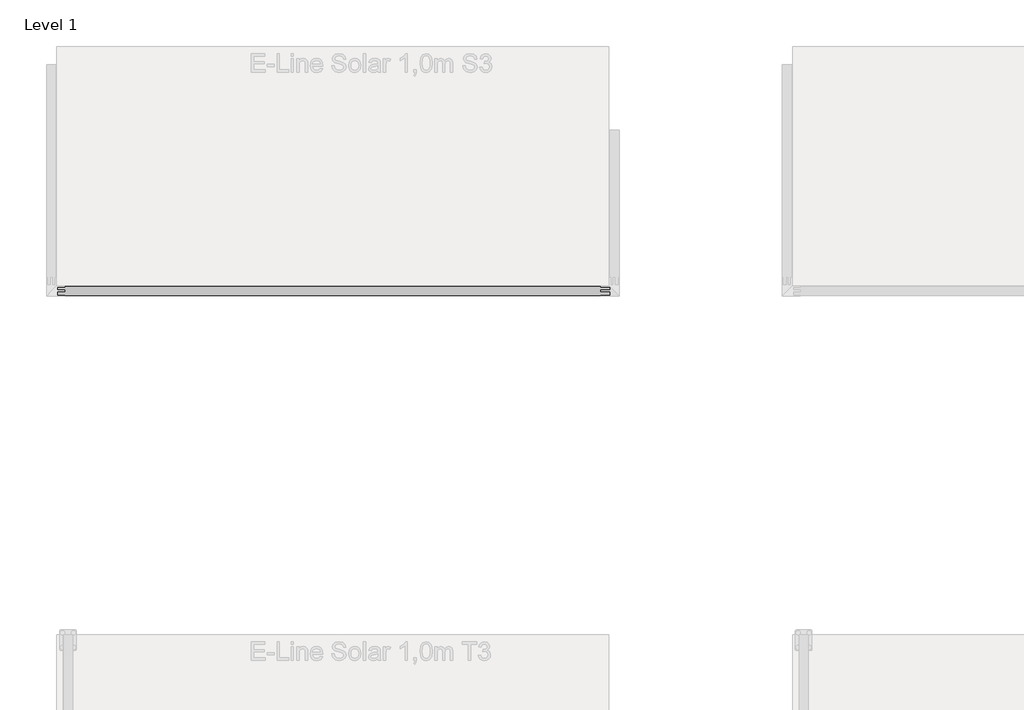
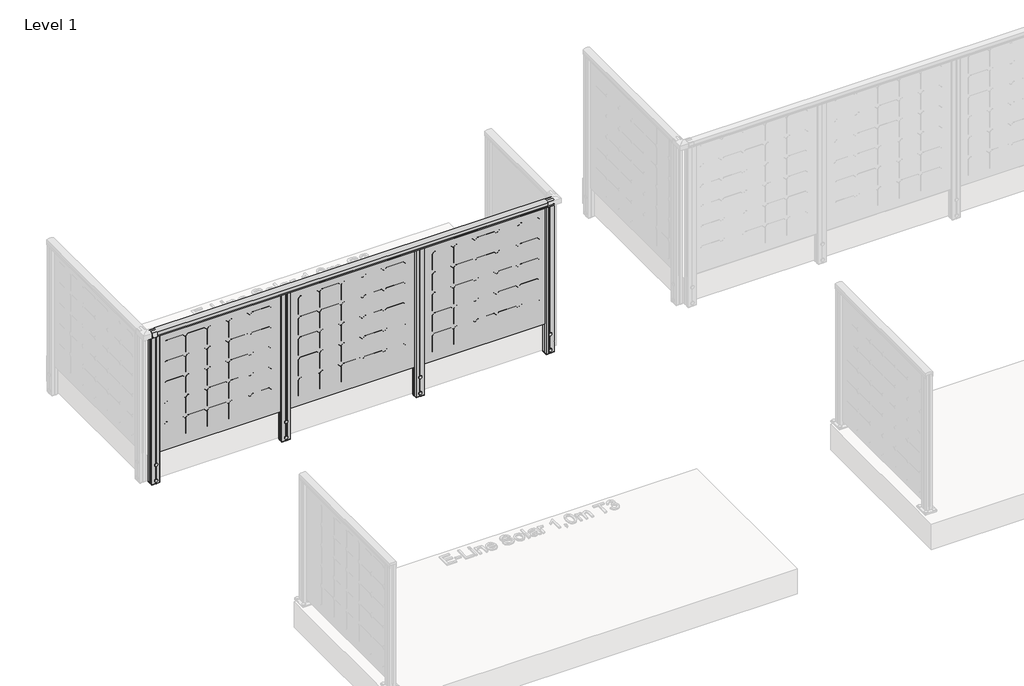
# One storey, part 36 of 66: 1 railing.
"""IFC4 building model written with IfcOpenShell, lengths in millimetres."""

from ifc_helpers import new_model, si_unit, point, frame, frame_2d, origin, place, context, project, spatial, polyline, circle_curve, trimmed, segment, composite_curve, outline, extrude, element, save

model = new_model("IFC4")

# Units and contexts
model_context = context("Model", 3, world=origin())
ifc_project = project(units=[si_unit("LENGTHUNIT", "METRE", prefix="MILLI")], contexts=[model_context])

# Site, building, storey
site = spatial("IfcSite", under=ifc_project)
building = spatial("IfcBuilding", under=site)
storey = spatial("IfcBuildingStorey", under=building, Name="Level 1", Elevation=0.0)

# Railing
placement = place(None, origin())
element("IfcRailing", 1, ObjectType="E-Line Solar 1,0m S3 5 columns of solar elements", at=placement, inside=storey, context=model_context, shape_type="SweptSolid", body=[
    extrude(outline(composite_curve([segment(polyline([(213.4211819, 994.1390059), (213.4211819, 967.1990555), (212.8063989, 966.5842725), (213.4211819, 965.9694895), (213.4211819, 957.2498847), (211.6613734, 957.2498847), (211.6613734, 980.4998829), (164.6663272, 980.4998829), (164.6663272, 957.2498847), (162.8613743, 957.2498847), (162.8613743, 965.8194895), (163.4834554, 966.4415706), (162.9015237, 967.0235023), (162.9015237, 994.1342258)]), True, "CONTINUOUS"), segment(trimmed(circle_curve(frame_2d((188.1662216, 942.6785502)), 57.3235687), [point((162.9015237, 994.1342258))], [point((213.4211819, 994.1390059))], False, "CARTESIAN"), True, "CONTINUOUS")], self_intersect=False)), frame((15301.5263105, 0.0, 0.0), z_axis=(1.0, 0.0, 0.0), x_axis=(0.0, 1.0, 0.0)), (0.0, 0.0, 1.0), 3000.0),
    extrude(outline(polyline([(15301.5263105, 184.5015979), (15301.5263105, 193.2615979), (18301.5263105, 193.2615979), (18301.5263105, 184.5015979), (15301.5263105, 184.5015979)])), frame((0.0, 0.0, 28.0), z_axis=(0.0, 0.0, 1.0), x_axis=(1.0, 0.0, 0.0)), (0.0, 0.0, 1.0), 952.0),
    extrude(outline(polyline([(0.0, 0.0), (-16.036927, 16.036927), (-16.036927, 139.963073), (0.0, 156.0), (123.9261459, 156.0), (139.963073, 139.963073), (139.963073, 16.036927), (123.9261459, 0.0), (0.0, 0.0)])), frame((17557.5263105, 184.3815979, 873.4156895), z_axis=(5.80887881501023e-12, 1.0, 0.0), x_axis=(0.0, 0.0, -1.0)), (0.0, 0.0, 1.0), 1.0),
    extrude(outline(polyline([(0.0, 0.0), (-16.036927, 16.036927), (-16.036927, 139.963073), (0.0, 156.0), (123.9261459, 156.0), (139.963073, 139.963073), (139.963073, 16.036927), (123.9261459, 0.0), (0.0, 0.0)])), frame((17557.5263105, 184.3815979, 712.4156895), z_axis=(5.80887881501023e-12, 1.0, 0.0), x_axis=(0.0, 0.0, -1.0)), (0.0, 0.0, 1.0), 1.0),
    extrude(outline(polyline([(0.0, 0.0), (-16.036927, 16.036927), (-16.036927, 139.963073), (0.0, 156.0), (123.9261459, 156.0), (139.963073, 139.963073), (139.963073, 16.036927), (123.9261459, 0.0), (0.0, 0.0)])), frame((17557.5263105, 184.3815979, 551.4156895), z_axis=(5.80887881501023e-12, 1.0, 0.0), x_axis=(0.0, 0.0, -1.0)), (0.0, 0.0, 1.0), 1.0),
    extrude(outline(polyline([(0.0, 0.0), (-16.036927, 16.036927), (-16.036927, 139.963073), (0.0, 156.0), (123.9261459, 156.0), (139.963073, 139.963073), (139.963073, 16.036927), (123.9261459, 0.0), (0.0, 0.0)])), frame((17557.5263105, 184.3815979, 390.4156895), z_axis=(5.80887881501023e-12, 1.0, 0.0), x_axis=(0.0, 0.0, -1.0)), (0.0, 0.0, 1.0), 1.0),
    extrude(outline(polyline([(0.0, 0.0), (-16.036927, 16.036927), (-16.036927, 139.963073), (0.0, 156.0), (123.9261459, 156.0), (139.963073, 139.963073), (139.963073, 16.036927), (123.9261459, 0.0), (0.0, 0.0)])), frame((17557.5263105, 184.3815979, 229.4156895), z_axis=(5.80887881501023e-12, 1.0, 0.0), x_axis=(0.0, 0.0, -1.0)), (0.0, 0.0, 1.0), 1.0),
    extrude(outline(polyline([(0.0, 0.0), (-16.036927, 16.036927), (-16.036927, 139.963073), (0.0, 156.0), (123.9261459, 156.0), (139.963073, 139.963073), (139.963073, 16.036927), (123.9261459, 0.0), (0.0, 0.0)])), frame((17718.5263105, 184.3815979, 873.4156895), z_axis=(5.80887881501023e-12, 1.0, 0.0), x_axis=(0.0, 0.0, -1.0)), (0.0, 0.0, 1.0), 1.0),
    extrude(outline(polyline([(0.0, 0.0), (-16.036927, 16.036927), (-16.036927, 139.963073), (0.0, 156.0), (123.9261459, 156.0), (139.963073, 139.963073), (139.963073, 16.036927), (123.9261459, 0.0), (0.0, 0.0)])), frame((17718.5263105, 184.3815979, 712.4156895), z_axis=(5.80887881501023e-12, 1.0, 0.0), x_axis=(0.0, 0.0, -1.0)), (0.0, 0.0, 1.0), 1.0),
    extrude(outline(polyline([(0.0, 0.0), (-16.036927, 16.036927), (-16.036927, 139.963073), (0.0, 156.0), (123.9261459, 156.0), (139.963073, 139.963073), (139.963073, 16.036927), (123.9261459, 0.0), (0.0, 0.0)])), frame((17718.5263105, 184.3815979, 551.4156895), z_axis=(5.80887881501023e-12, 1.0, 0.0), x_axis=(0.0, 0.0, -1.0)), (0.0, 0.0, 1.0), 1.0),
    extrude(outline(polyline([(0.0, 0.0), (-16.036927, 16.036927), (-16.036927, 139.963073), (0.0, 156.0), (123.9261459, 156.0), (139.963073, 139.963073), (139.963073, 16.036927), (123.9261459, 0.0), (0.0, 0.0)])), frame((17718.5263105, 184.3815979, 390.4156895), z_axis=(5.80887881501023e-12, 1.0, 0.0), x_axis=(0.0, 0.0, -1.0)), (0.0, 0.0, 1.0), 1.0),
    extrude(outline(polyline([(0.0, 0.0), (-16.036927, 16.036927), (-16.036927, 139.963073), (0.0, 156.0), (123.9261459, 156.0), (139.963073, 139.963073), (139.963073, 16.036927), (123.9261459, 0.0), (0.0, 0.0)])), frame((17718.5263105, 184.3815979, 229.4156895), z_axis=(5.80887881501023e-12, 1.0, 0.0), x_axis=(0.0, 0.0, -1.0)), (0.0, 0.0, 1.0), 1.0),
    extrude(outline(polyline([(0.0, 0.0), (-16.036927, 16.036927), (-16.036927, 139.963073), (0.0, 156.0), (123.9261459, 156.0), (139.963073, 139.963073), (139.963073, 16.036927), (123.9261459, 0.0), (0.0, 0.0)])), frame((18201.5263105, 184.3815979, 873.4156895), z_axis=(5.80887881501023e-12, 1.0, 0.0), x_axis=(0.0, 0.0, -1.0)), (0.0, 0.0, 1.0), 1.0),
    extrude(outline(polyline([(0.0, 0.0), (-16.036927, 16.036927), (-16.036927, 139.963073), (0.0, 156.0), (123.9261459, 156.0), (139.963073, 139.963073), (139.963073, 16.036927), (123.9261459, 0.0), (0.0, 0.0)])), frame((18201.5263105, 184.3815979, 712.4156895), z_axis=(5.80887881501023e-12, 1.0, 0.0), x_axis=(0.0, 0.0, -1.0)), (0.0, 0.0, 1.0), 1.0),
    extrude(outline(polyline([(0.0, 0.0), (-16.036927, 16.036927), (-16.036927, 139.963073), (0.0, 156.0), (123.9261459, 156.0), (139.963073, 139.963073), (139.963073, 16.036927), (123.9261459, 0.0), (0.0, 0.0)])), frame((18201.5263105, 184.3815979, 551.4156895), z_axis=(5.80887881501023e-12, 1.0, 0.0), x_axis=(0.0, 0.0, -1.0)), (0.0, 0.0, 1.0), 1.0),
    extrude(outline(polyline([(0.0, 0.0), (-16.036927, 16.036927), (-16.036927, 139.963073), (0.0, 156.0), (123.9261459, 156.0), (139.963073, 139.963073), (139.963073, 16.036927), (123.9261459, 0.0), (0.0, 0.0)])), frame((18201.5263105, 184.3815979, 390.4156895), z_axis=(5.80887881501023e-12, 1.0, 0.0), x_axis=(0.0, 0.0, -1.0)), (0.0, 0.0, 1.0), 1.0),
    extrude(outline(polyline([(0.0, 0.0), (-16.036927, 16.036927), (-16.036927, 139.963073), (0.0, 156.0), (123.9261459, 156.0), (139.963073, 139.963073), (139.963073, 16.036927), (123.9261459, 0.0), (0.0, 0.0)])), frame((18201.5263105, 184.3815979, 229.4156895), z_axis=(5.80887881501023e-12, 1.0, 0.0), x_axis=(0.0, 0.0, -1.0)), (0.0, 0.0, 1.0), 1.0),
    extrude(outline(polyline([(0.0, 0.0), (-16.036927, 16.036927), (-16.036927, 139.963073), (0.0, 156.0), (123.9261459, 156.0), (139.963073, 139.963073), (139.963073, 16.036927), (123.9261459, 0.0), (0.0, 0.0)])), frame((18040.5263105, 184.3815979, 873.4156895), z_axis=(5.80887881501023e-12, 1.0, 0.0), x_axis=(0.0, 0.0, -1.0)), (0.0, 0.0, 1.0), 1.0),
    extrude(outline(polyline([(0.0, 0.0), (-16.036927, 16.036927), (-16.036927, 139.963073), (0.0, 156.0), (123.9261459, 156.0), (139.963073, 139.963073), (139.963073, 16.036927), (123.9261459, 0.0), (0.0, 0.0)])), frame((18040.5263105, 184.3815979, 712.4156895), z_axis=(5.80887881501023e-12, 1.0, 0.0), x_axis=(0.0, 0.0, -1.0)), (0.0, 0.0, 1.0), 1.0),
    extrude(outline(polyline([(0.0, 0.0), (-16.036927, 16.036927), (-16.036927, 139.963073), (0.0, 156.0), (123.9261459, 156.0), (139.963073, 139.963073), (139.963073, 16.036927), (123.9261459, 0.0), (0.0, 0.0)])), frame((18040.5263105, 184.3815979, 551.4156895), z_axis=(5.80887881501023e-12, 1.0, 0.0), x_axis=(0.0, 0.0, -1.0)), (0.0, 0.0, 1.0), 1.0),
    extrude(outline(polyline([(0.0, 0.0), (-16.036927, 16.036927), (-16.036927, 139.963073), (0.0, 156.0), (123.9261459, 156.0), (139.963073, 139.963073), (139.963073, 16.036927), (123.9261459, 0.0), (0.0, 0.0)])), frame((18040.5263105, 184.3815979, 390.4156895), z_axis=(5.80887881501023e-12, 1.0, 0.0), x_axis=(0.0, 0.0, -1.0)), (0.0, 0.0, 1.0), 1.0),
    extrude(outline(polyline([(0.0, 0.0), (-16.036927, 16.036927), (-16.036927, 139.963073), (0.0, 156.0), (123.9261459, 156.0), (139.963073, 139.963073), (139.963073, 16.036927), (123.9261459, 0.0), (0.0, 0.0)])), frame((18040.5263105, 184.3815979, 229.4156895), z_axis=(5.80887881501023e-12, 1.0, 0.0), x_axis=(0.0, 0.0, -1.0)), (0.0, 0.0, 1.0), 1.0),
    extrude(outline(polyline([(0.0, 0.0), (-16.036927, 16.036927), (-16.036927, 139.963073), (0.0, 156.0), (123.9261459, 156.0), (139.963073, 139.963073), (139.963073, 16.036927), (123.9261459, 0.0), (0.0, 0.0)])), frame((17879.5263105, 184.3815979, 873.4156895), z_axis=(5.80887881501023e-12, 1.0, 0.0), x_axis=(0.0, 0.0, -1.0)), (0.0, 0.0, 1.0), 1.0),
    extrude(outline(polyline([(0.0, 0.0), (-16.036927, 16.036927), (-16.036927, 139.963073), (0.0, 156.0), (123.9261459, 156.0), (139.963073, 139.963073), (139.963073, 16.036927), (123.9261459, 0.0), (0.0, 0.0)])), frame((17879.5263105, 184.3815979, 712.4156895), z_axis=(5.80887881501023e-12, 1.0, 0.0), x_axis=(0.0, 0.0, -1.0)), (0.0, 0.0, 1.0), 1.0),
    extrude(outline(polyline([(0.0, 0.0), (-16.036927, 16.036927), (-16.036927, 139.963073), (0.0, 156.0), (123.9261459, 156.0), (139.963073, 139.963073), (139.963073, 16.036927), (123.9261459, 0.0), (0.0, 0.0)])), frame((17879.5263105, 184.3815979, 551.4156895), z_axis=(5.80887881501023e-12, 1.0, 0.0), x_axis=(0.0, 0.0, -1.0)), (0.0, 0.0, 1.0), 1.0),
    extrude(outline(polyline([(0.0, 0.0), (-16.036927, 16.036927), (-16.036927, 139.963073), (0.0, 156.0), (123.9261459, 156.0), (139.963073, 139.963073), (139.963073, 16.036927), (123.9261459, 0.0), (0.0, 0.0)])), frame((17879.5263105, 184.3815979, 390.4156895), z_axis=(5.80887881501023e-12, 1.0, 0.0), x_axis=(0.0, 0.0, -1.0)), (0.0, 0.0, 1.0), 1.0),
    extrude(outline(polyline([(0.0, 0.0), (-16.036927, 16.036927), (-16.036927, 139.963073), (0.0, 156.0), (123.9261459, 156.0), (139.963073, 139.963073), (139.963073, 16.036927), (123.9261459, 0.0), (0.0, 0.0)])), frame((17879.5263105, 184.3815979, 229.4156895), z_axis=(5.80887881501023e-12, 1.0, 0.0), x_axis=(0.0, 0.0, -1.0)), (0.0, 0.0, 1.0), 1.0),
    extrude(outline(polyline([(0.0, 0.0), (-16.036927, 16.036927), (-16.036927, 139.963073), (0.0, 156.0), (123.9261459, 156.0), (139.963073, 139.963073), (139.963073, 16.036927), (123.9261459, 0.0), (0.0, 0.0)])), frame((16557.5263105, 184.3815979, 873.4156895), z_axis=(5.80887881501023e-12, 1.0, 0.0), x_axis=(0.0, 0.0, -1.0)), (0.0, 0.0, 1.0), 1.0),
    extrude(outline(polyline([(0.0, 0.0), (-16.036927, 16.036927), (-16.036927, 139.963073), (0.0, 156.0), (123.9261459, 156.0), (139.963073, 139.963073), (139.963073, 16.036927), (123.9261459, 0.0), (0.0, 0.0)])), frame((16557.5263105, 184.3815979, 712.4156895), z_axis=(5.80887881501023e-12, 1.0, 0.0), x_axis=(0.0, 0.0, -1.0)), (0.0, 0.0, 1.0), 1.0),
    extrude(outline(polyline([(0.0, 0.0), (-16.036927, 16.036927), (-16.036927, 139.963073), (0.0, 156.0), (123.9261459, 156.0), (139.963073, 139.963073), (139.963073, 16.036927), (123.9261459, 0.0), (0.0, 0.0)])), frame((16557.5263105, 184.3815979, 551.4156895), z_axis=(5.80887881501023e-12, 1.0, 0.0), x_axis=(0.0, 0.0, -1.0)), (0.0, 0.0, 1.0), 1.0),
    extrude(outline(polyline([(0.0, 0.0), (-16.036927, 16.036927), (-16.036927, 139.963073), (0.0, 156.0), (123.9261459, 156.0), (139.963073, 139.963073), (139.963073, 16.036927), (123.9261459, 0.0), (0.0, 0.0)])), frame((16557.5263105, 184.3815979, 390.4156895), z_axis=(5.80887881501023e-12, 1.0, 0.0), x_axis=(0.0, 0.0, -1.0)), (0.0, 0.0, 1.0), 1.0),
    extrude(outline(polyline([(0.0, 0.0), (-16.036927, 16.036927), (-16.036927, 139.963073), (0.0, 156.0), (123.9261459, 156.0), (139.963073, 139.963073), (139.963073, 16.036927), (123.9261459, 0.0), (0.0, 0.0)])), frame((16557.5263105, 184.3815979, 229.4156895), z_axis=(5.80887881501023e-12, 1.0, 0.0), x_axis=(0.0, 0.0, -1.0)), (0.0, 0.0, 1.0), 1.0),
    extrude(outline(polyline([(0.0, 0.0), (-16.036927, 16.036927), (-16.036927, 139.963073), (0.0, 156.0), (123.9261459, 156.0), (139.963073, 139.963073), (139.963073, 16.036927), (123.9261459, 0.0), (0.0, 0.0)])), frame((16718.5263105, 184.3815979, 873.4156895), z_axis=(5.80887881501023e-12, 1.0, 0.0), x_axis=(0.0, 0.0, -1.0)), (0.0, 0.0, 1.0), 1.0),
    extrude(outline(polyline([(0.0, 0.0), (-16.036927, 16.036927), (-16.036927, 139.963073), (0.0, 156.0), (123.9261459, 156.0), (139.963073, 139.963073), (139.963073, 16.036927), (123.9261459, 0.0), (0.0, 0.0)])), frame((16718.5263105, 184.3815979, 712.4156895), z_axis=(5.80887881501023e-12, 1.0, 0.0), x_axis=(0.0, 0.0, -1.0)), (0.0, 0.0, 1.0), 1.0),
    extrude(outline(polyline([(0.0, 0.0), (-16.036927, 16.036927), (-16.036927, 139.963073), (0.0, 156.0), (123.9261459, 156.0), (139.963073, 139.963073), (139.963073, 16.036927), (123.9261459, 0.0), (0.0, 0.0)])), frame((16718.5263105, 184.3815979, 551.4156895), z_axis=(5.80887881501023e-12, 1.0, 0.0), x_axis=(0.0, 0.0, -1.0)), (0.0, 0.0, 1.0), 1.0),
    extrude(outline(polyline([(0.0, 0.0), (-16.036927, 16.036927), (-16.036927, 139.963073), (0.0, 156.0), (123.9261459, 156.0), (139.963073, 139.963073), (139.963073, 16.036927), (123.9261459, 0.0), (0.0, 0.0)])), frame((16718.5263105, 184.3815979, 390.4156895), z_axis=(5.80887881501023e-12, 1.0, 0.0), x_axis=(0.0, 0.0, -1.0)), (0.0, 0.0, 1.0), 1.0),
    extrude(outline(polyline([(0.0, 0.0), (-16.036927, 16.036927), (-16.036927, 139.963073), (0.0, 156.0), (123.9261459, 156.0), (139.963073, 139.963073), (139.963073, 16.036927), (123.9261459, 0.0), (0.0, 0.0)])), frame((16718.5263105, 184.3815979, 229.4156895), z_axis=(5.80887881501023e-12, 1.0, 0.0), x_axis=(0.0, 0.0, -1.0)), (0.0, 0.0, 1.0), 1.0),
    extrude(outline(polyline([(0.0, 0.0), (-16.036927, 16.036927), (-16.036927, 139.963073), (0.0, 156.0), (123.9261459, 156.0), (139.963073, 139.963073), (139.963073, 16.036927), (123.9261459, 0.0), (0.0, 0.0)])), frame((17201.5263105, 184.3815979, 873.4156895), z_axis=(5.80887881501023e-12, 1.0, 0.0), x_axis=(0.0, 0.0, -1.0)), (0.0, 0.0, 1.0), 1.0),
    extrude(outline(polyline([(0.0, 0.0), (-16.036927, 16.036927), (-16.036927, 139.963073), (0.0, 156.0), (123.9261459, 156.0), (139.963073, 139.963073), (139.963073, 16.036927), (123.9261459, 0.0), (0.0, 0.0)])), frame((17201.5263105, 184.3815979, 712.4156895), z_axis=(5.80887881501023e-12, 1.0, 0.0), x_axis=(0.0, 0.0, -1.0)), (0.0, 0.0, 1.0), 1.0),
    extrude(outline(polyline([(0.0, 0.0), (-16.036927, 16.036927), (-16.036927, 139.963073), (0.0, 156.0), (123.9261459, 156.0), (139.963073, 139.963073), (139.963073, 16.036927), (123.9261459, 0.0), (0.0, 0.0)])), frame((17201.5263105, 184.3815979, 551.4156895), z_axis=(5.80887881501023e-12, 1.0, 0.0), x_axis=(0.0, 0.0, -1.0)), (0.0, 0.0, 1.0), 1.0),
    extrude(outline(polyline([(0.0, 0.0), (-16.036927, 16.036927), (-16.036927, 139.963073), (0.0, 156.0), (123.9261459, 156.0), (139.963073, 139.963073), (139.963073, 16.036927), (123.9261459, 0.0), (0.0, 0.0)])), frame((17201.5263105, 184.3815979, 390.4156895), z_axis=(5.80887881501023e-12, 1.0, 0.0), x_axis=(0.0, 0.0, -1.0)), (0.0, 0.0, 1.0), 1.0),
    extrude(outline(polyline([(0.0, 0.0), (-16.036927, 16.036927), (-16.036927, 139.963073), (0.0, 156.0), (123.9261459, 156.0), (139.963073, 139.963073), (139.963073, 16.036927), (123.9261459, 0.0), (0.0, 0.0)])), frame((17201.5263105, 184.3815979, 229.4156895), z_axis=(5.80887881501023e-12, 1.0, 0.0), x_axis=(0.0, 0.0, -1.0)), (0.0, 0.0, 1.0), 1.0),
    extrude(outline(polyline([(0.0, 0.0), (-16.036927, 16.036927), (-16.036927, 139.963073), (0.0, 156.0), (123.9261459, 156.0), (139.963073, 139.963073), (139.963073, 16.036927), (123.9261459, 0.0), (0.0, 0.0)])), frame((17040.5263105, 184.3815979, 873.4156895), z_axis=(5.80887881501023e-12, 1.0, 0.0), x_axis=(0.0, 0.0, -1.0)), (0.0, 0.0, 1.0), 1.0),
    extrude(outline(polyline([(0.0, 0.0), (-16.036927, 16.036927), (-16.036927, 139.963073), (0.0, 156.0), (123.9261459, 156.0), (139.963073, 139.963073), (139.963073, 16.036927), (123.9261459, 0.0), (0.0, 0.0)])), frame((17040.5263105, 184.3815979, 712.4156895), z_axis=(5.80887881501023e-12, 1.0, 0.0), x_axis=(0.0, 0.0, -1.0)), (0.0, 0.0, 1.0), 1.0),
    extrude(outline(polyline([(0.0, 0.0), (-16.036927, 16.036927), (-16.036927, 139.963073), (0.0, 156.0), (123.9261459, 156.0), (139.963073, 139.963073), (139.963073, 16.036927), (123.9261459, 0.0), (0.0, 0.0)])), frame((17040.5263105, 184.3815979, 551.4156895), z_axis=(5.80887881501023e-12, 1.0, 0.0), x_axis=(0.0, 0.0, -1.0)), (0.0, 0.0, 1.0), 1.0),
    extrude(outline(polyline([(0.0, 0.0), (-16.036927, 16.036927), (-16.036927, 139.963073), (0.0, 156.0), (123.9261459, 156.0), (139.963073, 139.963073), (139.963073, 16.036927), (123.9261459, 0.0), (0.0, 0.0)])), frame((17040.5263105, 184.3815979, 390.4156895), z_axis=(5.80887881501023e-12, 1.0, 0.0), x_axis=(0.0, 0.0, -1.0)), (0.0, 0.0, 1.0), 1.0),
    extrude(outline(polyline([(0.0, 0.0), (-16.036927, 16.036927), (-16.036927, 139.963073), (0.0, 156.0), (123.9261459, 156.0), (139.963073, 139.963073), (139.963073, 16.036927), (123.9261459, 0.0), (0.0, 0.0)])), frame((17040.5263105, 184.3815979, 229.4156895), z_axis=(5.80887881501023e-12, 1.0, 0.0), x_axis=(0.0, 0.0, -1.0)), (0.0, 0.0, 1.0), 1.0),
    extrude(outline(polyline([(0.0, 0.0), (-16.036927, 16.036927), (-16.036927, 139.963073), (0.0, 156.0), (123.9261459, 156.0), (139.963073, 139.963073), (139.963073, 16.036927), (123.9261459, 0.0), (0.0, 0.0)])), frame((16879.5263105, 184.3815979, 873.4156895), z_axis=(5.80887881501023e-12, 1.0, 0.0), x_axis=(0.0, 0.0, -1.0)), (0.0, 0.0, 1.0), 1.0),
    extrude(outline(polyline([(0.0, 0.0), (-16.036927, 16.036927), (-16.036927, 139.963073), (0.0, 156.0), (123.9261459, 156.0), (139.963073, 139.963073), (139.963073, 16.036927), (123.9261459, 0.0), (0.0, 0.0)])), frame((16879.5263105, 184.3815979, 712.4156895), z_axis=(5.80887881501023e-12, 1.0, 0.0), x_axis=(0.0, 0.0, -1.0)), (0.0, 0.0, 1.0), 1.0),
    extrude(outline(polyline([(0.0, 0.0), (-16.036927, 16.036927), (-16.036927, 139.963073), (0.0, 156.0), (123.9261459, 156.0), (139.963073, 139.963073), (139.963073, 16.036927), (123.9261459, 0.0), (0.0, 0.0)])), frame((16879.5263105, 184.3815979, 551.4156895), z_axis=(5.80887881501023e-12, 1.0, 0.0), x_axis=(0.0, 0.0, -1.0)), (0.0, 0.0, 1.0), 1.0),
    extrude(outline(polyline([(0.0, 0.0), (-16.036927, 16.036927), (-16.036927, 139.963073), (0.0, 156.0), (123.9261459, 156.0), (139.963073, 139.963073), (139.963073, 16.036927), (123.9261459, 0.0), (0.0, 0.0)])), frame((16879.5263105, 184.3815979, 390.4156895), z_axis=(5.80887881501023e-12, 1.0, 0.0), x_axis=(0.0, 0.0, -1.0)), (0.0, 0.0, 1.0), 1.0),
    extrude(outline(polyline([(0.0, 0.0), (-16.036927, 16.036927), (-16.036927, 139.963073), (0.0, 156.0), (123.9261459, 156.0), (139.963073, 139.963073), (139.963073, 16.036927), (123.9261459, 0.0), (0.0, 0.0)])), frame((16879.5263105, 184.3815979, 229.4156895), z_axis=(5.80887881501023e-12, 1.0, 0.0), x_axis=(0.0, 0.0, -1.0)), (0.0, 0.0, 1.0), 1.0),
    extrude(outline(polyline([(0.0, 0.0), (-16.036927, 16.036927), (-16.036927, 139.963073), (0.0, 156.0), (123.9261459, 156.0), (139.963073, 139.963073), (139.963073, 16.036927), (123.9261459, 0.0), (0.0, 0.0)])), frame((15557.5263105, 184.3815979, 873.4156895), z_axis=(5.80887881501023e-12, 1.0, 0.0), x_axis=(0.0, 0.0, -1.0)), (0.0, 0.0, 1.0), 1.0),
    extrude(outline(polyline([(0.0, 0.0), (-16.036927, 16.036927), (-16.036927, 139.963073), (0.0, 156.0), (123.9261459, 156.0), (139.963073, 139.963073), (139.963073, 16.036927), (123.9261459, 0.0), (0.0, 0.0)])), frame((15557.5263105, 184.3815979, 712.4156895), z_axis=(5.80887881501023e-12, 1.0, 0.0), x_axis=(0.0, 0.0, -1.0)), (0.0, 0.0, 1.0), 1.0),
    extrude(outline(polyline([(0.0, 0.0), (-16.036927, 16.036927), (-16.036927, 139.963073), (0.0, 156.0), (123.9261459, 156.0), (139.963073, 139.963073), (139.963073, 16.036927), (123.9261459, 0.0), (0.0, 0.0)])), frame((15557.5263105, 184.3815979, 551.4156895), z_axis=(5.80887881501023e-12, 1.0, 0.0), x_axis=(0.0, 0.0, -1.0)), (0.0, 0.0, 1.0), 1.0),
    extrude(outline(polyline([(0.0, 0.0), (-16.036927, 16.036927), (-16.036927, 139.963073), (0.0, 156.0), (123.9261459, 156.0), (139.963073, 139.963073), (139.963073, 16.036927), (123.9261459, 0.0), (0.0, 0.0)])), frame((15557.5263105, 184.3815979, 390.4156895), z_axis=(5.80887881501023e-12, 1.0, 0.0), x_axis=(0.0, 0.0, -1.0)), (0.0, 0.0, 1.0), 1.0),
    extrude(outline(polyline([(0.0, 0.0), (-16.036927, 16.036927), (-16.036927, 139.963073), (0.0, 156.0), (123.9261459, 156.0), (139.963073, 139.963073), (139.963073, 16.036927), (123.9261459, 0.0), (0.0, 0.0)])), frame((15557.5263105, 184.3815979, 229.4156895), z_axis=(5.80887881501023e-12, 1.0, 0.0), x_axis=(0.0, 0.0, -1.0)), (0.0, 0.0, 1.0), 1.0),
    extrude(outline(polyline([(0.0, 0.0), (-16.036927, 16.036927), (-16.036927, 139.963073), (0.0, 156.0), (123.9261459, 156.0), (139.963073, 139.963073), (139.963073, 16.036927), (123.9261459, 0.0), (0.0, 0.0)])), frame((15718.5263105, 184.3815979, 873.4156895), z_axis=(5.80887881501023e-12, 1.0, 0.0), x_axis=(0.0, 0.0, -1.0)), (0.0, 0.0, 1.0), 1.0),
    extrude(outline(polyline([(0.0, 0.0), (-16.036927, 16.036927), (-16.036927, 139.963073), (0.0, 156.0), (123.9261459, 156.0), (139.963073, 139.963073), (139.963073, 16.036927), (123.9261459, 0.0), (0.0, 0.0)])), frame((15718.5263105, 184.3815979, 712.4156895), z_axis=(5.80887881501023e-12, 1.0, 0.0), x_axis=(0.0, 0.0, -1.0)), (0.0, 0.0, 1.0), 1.0),
    extrude(outline(polyline([(0.0, 0.0), (-16.036927, 16.036927), (-16.036927, 139.963073), (0.0, 156.0), (123.9261459, 156.0), (139.963073, 139.963073), (139.963073, 16.036927), (123.9261459, 0.0), (0.0, 0.0)])), frame((15718.5263105, 184.3815979, 551.4156895), z_axis=(5.80887881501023e-12, 1.0, 0.0), x_axis=(0.0, 0.0, -1.0)), (0.0, 0.0, 1.0), 1.0),
    extrude(outline(polyline([(0.0, 0.0), (-16.036927, 16.036927), (-16.036927, 139.963073), (0.0, 156.0), (123.9261459, 156.0), (139.963073, 139.963073), (139.963073, 16.036927), (123.9261459, 0.0), (0.0, 0.0)])), frame((15718.5263105, 184.3815979, 390.4156895), z_axis=(5.80887881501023e-12, 1.0, 0.0), x_axis=(0.0, 0.0, -1.0)), (0.0, 0.0, 1.0), 1.0),
    extrude(outline(polyline([(0.0, 0.0), (-16.036927, 16.036927), (-16.036927, 139.963073), (0.0, 156.0), (123.9261459, 156.0), (139.963073, 139.963073), (139.963073, 16.036927), (123.9261459, 0.0), (0.0, 0.0)])), frame((15718.5263105, 184.3815979, 229.4156895), z_axis=(5.80887881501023e-12, 1.0, 0.0), x_axis=(0.0, 0.0, -1.0)), (0.0, 0.0, 1.0), 1.0),
    extrude(outline(polyline([(0.0, 0.0), (-16.036927, 16.036927), (-16.036927, 139.963073), (0.0, 156.0), (123.9261459, 156.0), (139.963073, 139.963073), (139.963073, 16.036927), (123.9261459, 0.0), (0.0, 0.0)])), frame((16201.5263105, 184.3815979, 873.4156895), z_axis=(5.80887881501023e-12, 1.0, 0.0), x_axis=(0.0, 0.0, -1.0)), (0.0, 0.0, 1.0), 1.0),
    extrude(outline(polyline([(0.0, 0.0), (-16.036927, 16.036927), (-16.036927, 139.963073), (0.0, 156.0), (123.9261459, 156.0), (139.963073, 139.963073), (139.963073, 16.036927), (123.9261459, 0.0), (0.0, 0.0)])), frame((16201.5263105, 184.3815979, 712.4156895), z_axis=(5.80887881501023e-12, 1.0, 0.0), x_axis=(0.0, 0.0, -1.0)), (0.0, 0.0, 1.0), 1.0),
    extrude(outline(polyline([(0.0, 0.0), (-16.036927, 16.036927), (-16.036927, 139.963073), (0.0, 156.0), (123.9261459, 156.0), (139.963073, 139.963073), (139.963073, 16.036927), (123.9261459, 0.0), (0.0, 0.0)])), frame((16201.5263105, 184.3815979, 551.4156895), z_axis=(5.80887881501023e-12, 1.0, 0.0), x_axis=(0.0, 0.0, -1.0)), (0.0, 0.0, 1.0), 1.0),
    extrude(outline(polyline([(0.0, 0.0), (-16.036927, 16.036927), (-16.036927, 139.963073), (0.0, 156.0), (123.9261459, 156.0), (139.963073, 139.963073), (139.963073, 16.036927), (123.9261459, 0.0), (0.0, 0.0)])), frame((16201.5263105, 184.3815979, 390.4156895), z_axis=(5.80887881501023e-12, 1.0, 0.0), x_axis=(0.0, 0.0, -1.0)), (0.0, 0.0, 1.0), 1.0),
    extrude(outline(polyline([(0.0, 0.0), (-16.036927, 16.036927), (-16.036927, 139.963073), (0.0, 156.0), (123.9261459, 156.0), (139.963073, 139.963073), (139.963073, 16.036927), (123.9261459, 0.0), (0.0, 0.0)])), frame((16201.5263105, 184.3815979, 229.4156895), z_axis=(5.80887881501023e-12, 1.0, 0.0), x_axis=(0.0, 0.0, -1.0)), (0.0, 0.0, 1.0), 1.0),
    extrude(outline(polyline([(0.0, 0.0), (-16.036927, 16.036927), (-16.036927, 139.963073), (0.0, 156.0), (123.9261459, 156.0), (139.963073, 139.963073), (139.963073, 16.036927), (123.9261459, 0.0), (0.0, 0.0)])), frame((16040.5263105, 184.3815979, 873.4156895), z_axis=(5.80887881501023e-12, 1.0, 0.0), x_axis=(0.0, 0.0, -1.0)), (0.0, 0.0, 1.0), 1.0),
    extrude(outline(polyline([(0.0, 0.0), (-16.036927, 16.036927), (-16.036927, 139.963073), (0.0, 156.0), (123.9261459, 156.0), (139.963073, 139.963073), (139.963073, 16.036927), (123.9261459, 0.0), (0.0, 0.0)])), frame((16040.5263105, 184.3815979, 712.4156895), z_axis=(5.80887881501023e-12, 1.0, 0.0), x_axis=(0.0, 0.0, -1.0)), (0.0, 0.0, 1.0), 1.0),
    extrude(outline(polyline([(0.0, 0.0), (-16.036927, 16.036927), (-16.036927, 139.963073), (0.0, 156.0), (123.9261459, 156.0), (139.963073, 139.963073), (139.963073, 16.036927), (123.9261459, 0.0), (0.0, 0.0)])), frame((16040.5263105, 184.3815979, 551.4156895), z_axis=(5.80887881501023e-12, 1.0, 0.0), x_axis=(0.0, 0.0, -1.0)), (0.0, 0.0, 1.0), 1.0),
    extrude(outline(polyline([(0.0, 0.0), (-16.036927, 16.036927), (-16.036927, 139.963073), (0.0, 156.0), (123.9261459, 156.0), (139.963073, 139.963073), (139.963073, 16.036927), (123.9261459, 0.0), (0.0, 0.0)])), frame((16040.5263105, 184.3815979, 390.4156895), z_axis=(5.80887881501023e-12, 1.0, 0.0), x_axis=(0.0, 0.0, -1.0)), (0.0, 0.0, 1.0), 1.0),
    extrude(outline(polyline([(0.0, 0.0), (-16.036927, 16.036927), (-16.036927, 139.963073), (0.0, 156.0), (123.9261459, 156.0), (139.963073, 139.963073), (139.963073, 16.036927), (123.9261459, 0.0), (0.0, 0.0)])), frame((16040.5263105, 184.3815979, 229.4156895), z_axis=(5.80887881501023e-12, 1.0, 0.0), x_axis=(0.0, 0.0, -1.0)), (0.0, 0.0, 1.0), 1.0),
    extrude(outline(polyline([(0.0, 0.0), (-16.036927, 16.036927), (-16.036927, 139.963073), (0.0, 156.0), (123.9261459, 156.0), (139.963073, 139.963073), (139.963073, 16.036927), (123.9261459, 0.0), (0.0, 0.0)])), frame((15879.5263105, 184.3815979, 873.4156895), z_axis=(5.80887881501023e-12, 1.0, 0.0), x_axis=(0.0, 0.0, -1.0)), (0.0, 0.0, 1.0), 1.0),
    extrude(outline(polyline([(0.0, 0.0), (-16.036927, 16.036927), (-16.036927, 139.963073), (0.0, 156.0), (123.9261459, 156.0), (139.963073, 139.963073), (139.963073, 16.036927), (123.9261459, 0.0), (0.0, 0.0)])), frame((15879.5263105, 184.3815979, 712.4156895), z_axis=(5.80887881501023e-12, 1.0, 0.0), x_axis=(0.0, 0.0, -1.0)), (0.0, 0.0, 1.0), 1.0),
    extrude(outline(polyline([(0.0, 0.0), (-16.036927, 16.036927), (-16.036927, 139.963073), (0.0, 156.0), (123.9261459, 156.0), (139.963073, 139.963073), (139.963073, 16.036927), (123.9261459, 0.0), (0.0, 0.0)])), frame((15879.5263105, 184.3815979, 551.4156895), z_axis=(5.80887881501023e-12, 1.0, 0.0), x_axis=(0.0, 0.0, -1.0)), (0.0, 0.0, 1.0), 1.0),
    extrude(outline(polyline([(0.0, 0.0), (-16.036927, 16.036927), (-16.036927, 139.963073), (0.0, 156.0), (123.9261459, 156.0), (139.963073, 139.963073), (139.963073, 16.036927), (123.9261459, 0.0), (0.0, 0.0)])), frame((15879.5263105, 184.3815979, 390.4156895), z_axis=(5.80887881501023e-12, 1.0, 0.0), x_axis=(0.0, 0.0, -1.0)), (0.0, 0.0, 1.0), 1.0),
    extrude(outline(polyline([(0.0, 0.0), (-16.036927, 16.036927), (-16.036927, 139.963073), (0.0, 156.0), (123.9261459, 156.0), (139.963073, 139.963073), (139.963073, 16.036927), (123.9261459, 0.0), (0.0, 0.0)])), frame((15879.5263105, 184.3815979, 229.4156895), z_axis=(5.80887881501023e-12, 1.0, 0.0), x_axis=(0.0, 0.0, -1.0)), (0.0, 0.0, 1.0), 1.0),
    extrude(outline(polyline([(17331.5247174, 193.2274599), (17314.0247176, 193.2300371), (17314.0234275, 184.4700372), (17331.5234273, 184.46746), (17331.5207684, 166.4126526), (17302.4037815, 166.4169406), (17301.525618, 167.2953627), (17300.4877501, 166.3770304), (17271.5207632, 166.3812963), (17271.523428, 184.4762961), (17289.0234278, 184.4737189), (17289.0247179, 193.2337188), (17271.5247181, 193.236296), (17271.5273844, 211.3412471), (17300.5438599, 211.3369739), (17301.5319584, 210.3485843), (17302.5604026, 211.3767256), (17331.5273896, 211.3724597), (17331.5247174, 193.2274599)])), frame((0.0, 0.0, -202.0233958), z_axis=(0.0, 0.0, 1.0), x_axis=(1.0, 0.0, 0.0)), (0.0, 0.0, 1.0), 2.0),
    extrude(outline(composite_curve([segment(trimmed(circle_curve(frame_2d((0.0, 12.0000001)), 12.0), [point((0.0, 24.0))], [point((0.0, 0.0))], False, "CARTESIAN"), True, "CONTINUOUS"), segment(trimmed(circle_curve(frame_2d((0.0, 12.0000001)), 12.0), [point((0.0, 0.0))], [point((0.0, 24.0))], False, "CARTESIAN"), True, "CONTINUOUS")], self_intersect=False)), frame((17289.5160336, 163.3463854, -175.0), z_axis=(0.00040291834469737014, 0.9999999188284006, 0.0), x_axis=(0.0, 0.0, 1.0)), (0.0, 0.0, 1.0), 3.0757477),
    extrude(outline(composite_curve([segment(trimmed(circle_curve(frame_2d((0.0, 12.0000001)), 12.0), [point((0.0, 24.0))], [point((0.0, 0.0))], False, "CARTESIAN"), True, "CONTINUOUS"), segment(trimmed(circle_curve(frame_2d((0.0, 12.0000001)), 12.0), [point((0.0, 0.0))], [point((0.0, 24.0))], False, "CARTESIAN"), True, "CONTINUOUS")], self_intersect=False)), frame((17289.5160336, 163.3463854, -50.0), z_axis=(0.00040291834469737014, 0.9999999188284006, 0.0), x_axis=(0.0, 0.0, 1.0)), (0.0, 0.0, 1.0), 3.0757477),
    extrude(outline(polyline([(17331.5247174, 193.2274599), (17314.0247176, 193.2300371), (17314.0234275, 184.4700372), (17331.5234273, 184.46746), (17331.5207684, 166.4126526), (17302.4037815, 166.4169406), (17301.525618, 167.2953627), (17300.4877501, 166.3770304), (17271.5207632, 166.3812963), (17271.523428, 184.4762961), (17289.0234278, 184.4737189), (17289.0247179, 193.2337188), (17271.5247181, 193.236296), (17271.5273844, 211.3412471), (17300.5438599, 211.3369739), (17301.5319584, 210.3485843), (17302.5604026, 211.3767256), (17331.5273896, 211.3724597), (17331.5247174, 193.2274599)]), holes=[polyline([(17292.7270955, 168.3755823), (17310.3210573, 168.3755823), (17310.3210573, 209.3781738), (17292.7270955, 209.3781738), (17292.7270955, 168.3755823)]), polyline([(17273.5270957, 195.2334684), (17290.7250124, 195.2334684), (17290.7250124, 209.3810013), (17273.5270957, 209.3810013), (17273.5270957, 195.2334684)]), polyline([(17273.5231335, 168.3755823), (17290.7210571, 168.3755823), (17290.7210571, 182.4760016), (17273.5231335, 182.4760016), (17273.5231335, 168.3755823)]), polyline([(17312.3270953, 195.2277544), (17329.525012, 195.2277544), (17329.525012, 209.3752873), (17312.3270953, 209.3752873), (17312.3270953, 195.2277544)]), polyline([(17312.323133, 168.3227547), (17329.5210497, 168.3227547), (17329.5210497, 182.4702876), (17312.323133, 182.4702876), (17312.323133, 168.3227547)])]), frame((0.0, 0.0, -200.0), z_axis=(0.0, 0.0, 1.0), x_axis=(1.0, 0.0, 0.0)), (0.0, 0.0, 1.0), 1181.0),
    extrude(outline(polyline([(16331.5247174, 193.2274599), (16314.0247176, 193.2300371), (16314.0234275, 184.4700372), (16331.5234273, 184.46746), (16331.5207684, 166.4126526), (16302.4037815, 166.4169406), (16301.525618, 167.2953627), (16300.4877501, 166.3770304), (16271.5207632, 166.3812963), (16271.523428, 184.4762961), (16289.0234278, 184.4737189), (16289.0247179, 193.2337188), (16271.5247181, 193.236296), (16271.5273844, 211.3412471), (16300.5438599, 211.3369739), (16301.5319584, 210.3485843), (16302.5604026, 211.3767256), (16331.5273896, 211.3724597), (16331.5247174, 193.2274599)])), frame((0.0, 0.0, -202.0233958), z_axis=(0.0, 0.0, 1.0), x_axis=(1.0, 0.0, 0.0)), (0.0, 0.0, 1.0), 2.0),
    extrude(outline(composite_curve([segment(trimmed(circle_curve(frame_2d((0.0, 12.0000001)), 12.0), [point((0.0, 24.0))], [point((0.0, 0.0))], False, "CARTESIAN"), True, "CONTINUOUS"), segment(trimmed(circle_curve(frame_2d((0.0, 12.0000001)), 12.0), [point((0.0, 0.0))], [point((0.0, 24.0))], False, "CARTESIAN"), True, "CONTINUOUS")], self_intersect=False)), frame((16289.5160336, 163.3463854, -175.0), z_axis=(0.00040291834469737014, 0.9999999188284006, 0.0), x_axis=(0.0, 0.0, 1.0)), (0.0, 0.0, 1.0), 3.0757477),
    extrude(outline(composite_curve([segment(trimmed(circle_curve(frame_2d((0.0, 12.0000001)), 12.0), [point((0.0, 24.0))], [point((0.0, 0.0))], False, "CARTESIAN"), True, "CONTINUOUS"), segment(trimmed(circle_curve(frame_2d((0.0, 12.0000001)), 12.0), [point((0.0, 0.0))], [point((0.0, 24.0))], False, "CARTESIAN"), True, "CONTINUOUS")], self_intersect=False)), frame((16289.5160336, 163.3463854, -50.0), z_axis=(0.00040291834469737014, 0.9999999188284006, 0.0), x_axis=(0.0, 0.0, 1.0)), (0.0, 0.0, 1.0), 3.0757477),
    extrude(outline(polyline([(16331.5247174, 193.2274599), (16314.0247176, 193.2300371), (16314.0234275, 184.4700372), (16331.5234273, 184.46746), (16331.5207684, 166.4126526), (16302.4037815, 166.4169406), (16301.525618, 167.2953627), (16300.4877501, 166.3770304), (16271.5207632, 166.3812963), (16271.523428, 184.4762961), (16289.0234278, 184.4737189), (16289.0247179, 193.2337188), (16271.5247181, 193.236296), (16271.5273844, 211.3412471), (16300.5438599, 211.3369739), (16301.5319584, 210.3485843), (16302.5604026, 211.3767256), (16331.5273896, 211.3724597), (16331.5247174, 193.2274599)]), holes=[polyline([(16292.7270955, 168.3755823), (16310.3210573, 168.3755823), (16310.3210573, 209.3781738), (16292.7270955, 209.3781738), (16292.7270955, 168.3755823)]), polyline([(16273.5270957, 195.2334684), (16290.7250124, 195.2334684), (16290.7250124, 209.3810013), (16273.5270957, 209.3810013), (16273.5270957, 195.2334684)]), polyline([(16273.5231335, 168.3755823), (16290.7210571, 168.3755823), (16290.7210571, 182.4760016), (16273.5231335, 182.4760016), (16273.5231335, 168.3755823)]), polyline([(16312.3270953, 195.2277544), (16329.525012, 195.2277544), (16329.525012, 209.3752873), (16312.3270953, 209.3752873), (16312.3270953, 195.2277544)]), polyline([(16312.323133, 168.3227547), (16329.5210497, 168.3227547), (16329.5210497, 182.4702876), (16312.323133, 182.4702876), (16312.323133, 168.3227547)])]), frame((0.0, 0.0, -200.0), z_axis=(0.0, 0.0, 1.0), x_axis=(1.0, 0.0, 0.0)), (0.0, 0.0, 1.0), 1181.0),
    extrude(outline(polyline([(18301.5247174, 193.2274599), (18284.0247176, 193.2300371), (18284.0234275, 184.4700372), (18301.5234273, 184.46746), (18301.5207684, 166.4126526), (18272.4037815, 166.4169406), (18271.525618, 167.2953627), (18270.4877501, 166.3770304), (18241.5207632, 166.3812963), (18241.523428, 184.4762961), (18259.0234278, 184.4737189), (18259.0247179, 193.2337188), (18241.5247181, 193.236296), (18241.5273844, 211.3412471), (18270.5438599, 211.3369739), (18271.5319584, 210.3485843), (18272.5604026, 211.3767256), (18301.5273896, 211.3724597), (18301.5247174, 193.2274599)])), frame((0.0, 0.0, -202.0233958), z_axis=(0.0, 0.0, 1.0), x_axis=(1.0, 0.0, 0.0)), (0.0, 0.0, 1.0), 2.0),
    extrude(outline(composite_curve([segment(trimmed(circle_curve(frame_2d((0.0, 12.0000001)), 12.0), [point((0.0, 24.0))], [point((0.0, 0.0))], False, "CARTESIAN"), True, "CONTINUOUS"), segment(trimmed(circle_curve(frame_2d((0.0, 12.0000001)), 12.0), [point((0.0, 0.0))], [point((0.0, 24.0))], False, "CARTESIAN"), True, "CONTINUOUS")], self_intersect=False)), frame((18259.5160336, 163.3463854, -175.0), z_axis=(0.00040291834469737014, 0.9999999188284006, 0.0), x_axis=(0.0, 0.0, 1.0)), (0.0, 0.0, 1.0), 3.0757477),
    extrude(outline(composite_curve([segment(trimmed(circle_curve(frame_2d((0.0, 12.0000001)), 12.0), [point((0.0, 24.0))], [point((0.0, 0.0))], False, "CARTESIAN"), True, "CONTINUOUS"), segment(trimmed(circle_curve(frame_2d((0.0, 12.0000001)), 12.0), [point((0.0, 0.0))], [point((0.0, 24.0))], False, "CARTESIAN"), True, "CONTINUOUS")], self_intersect=False)), frame((18259.5160336, 163.3463854, -50.0), z_axis=(0.00040291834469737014, 0.9999999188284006, 0.0), x_axis=(0.0, 0.0, 1.0)), (0.0, 0.0, 1.0), 3.0757477),
    extrude(outline(polyline([(18301.5247174, 193.2274599), (18284.0247176, 193.2300371), (18284.0234275, 184.4700372), (18301.5234273, 184.46746), (18301.5207684, 166.4126526), (18272.4037815, 166.4169406), (18271.525618, 167.2953627), (18270.4877501, 166.3770304), (18241.5207632, 166.3812963), (18241.523428, 184.4762961), (18259.0234278, 184.4737189), (18259.0247179, 193.2337188), (18241.5247181, 193.236296), (18241.5273844, 211.3412471), (18270.5438599, 211.3369739), (18271.5319584, 210.3485843), (18272.5604026, 211.3767256), (18301.5273896, 211.3724597), (18301.5247174, 193.2274599)]), holes=[polyline([(18262.7270955, 168.3755823), (18280.3210573, 168.3755823), (18280.3210573, 209.3781738), (18262.7270955, 209.3781738), (18262.7270955, 168.3755823)]), polyline([(18243.5270957, 195.2334684), (18260.7250124, 195.2334684), (18260.7250124, 209.3810013), (18243.5270957, 209.3810013), (18243.5270957, 195.2334684)]), polyline([(18243.5231335, 168.3755823), (18260.7210571, 168.3755823), (18260.7210571, 182.4760016), (18243.5231335, 182.4760016), (18243.5231335, 168.3755823)]), polyline([(18282.3270953, 195.2277544), (18299.525012, 195.2277544), (18299.525012, 209.3752873), (18282.3270953, 209.3752873), (18282.3270953, 195.2277544)]), polyline([(18282.323133, 168.3227547), (18299.5210497, 168.3227547), (18299.5210497, 182.4702876), (18282.323133, 182.4702876), (18282.323133, 168.3227547)])]), frame((0.0, 0.0, -200.0), z_axis=(0.0, 0.0, 1.0), x_axis=(1.0, 0.0, 0.0)), (0.0, 0.0, 1.0), 1181.0),
    extrude(outline(polyline([(15361.5247174, 193.2274599), (15344.0247176, 193.2300371), (15344.0234275, 184.4700372), (15361.5234273, 184.46746), (15361.5207684, 166.4126526), (15332.4037815, 166.4169406), (15331.525618, 167.2953627), (15330.4877501, 166.3770304), (15301.5207632, 166.3812963), (15301.523428, 184.4762961), (15319.0234278, 184.4737189), (15319.0247179, 193.2337188), (15301.5247181, 193.236296), (15301.5273844, 211.3412471), (15330.5438599, 211.3369739), (15331.5319584, 210.3485843), (15332.5604026, 211.3767256), (15361.5273896, 211.3724597), (15361.5247174, 193.2274599)])), frame((0.0, 0.0, -202.0233958), z_axis=(0.0, 0.0, 1.0), x_axis=(1.0, 0.0, 0.0)), (0.0, 0.0, 1.0), 2.0),
    extrude(outline(composite_curve([segment(trimmed(circle_curve(frame_2d((0.0, 12.0000001)), 12.0), [point((0.0, 24.0))], [point((0.0, 0.0))], False, "CARTESIAN"), True, "CONTINUOUS"), segment(trimmed(circle_curve(frame_2d((0.0, 12.0000001)), 12.0), [point((0.0, 0.0))], [point((0.0, 24.0))], False, "CARTESIAN"), True, "CONTINUOUS")], self_intersect=False)), frame((15319.5160336, 163.3463854, -175.0), z_axis=(0.00040291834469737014, 0.9999999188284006, 0.0), x_axis=(0.0, 0.0, 1.0)), (0.0, 0.0, 1.0), 3.0757477),
    extrude(outline(composite_curve([segment(trimmed(circle_curve(frame_2d((0.0, 12.0000001)), 12.0), [point((0.0, 24.0))], [point((0.0, 0.0))], False, "CARTESIAN"), True, "CONTINUOUS"), segment(trimmed(circle_curve(frame_2d((0.0, 12.0000001)), 12.0), [point((0.0, 0.0))], [point((0.0, 24.0))], False, "CARTESIAN"), True, "CONTINUOUS")], self_intersect=False)), frame((15319.5160336, 163.3463854, -50.0), z_axis=(0.00040291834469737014, 0.9999999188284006, 0.0), x_axis=(0.0, 0.0, 1.0)), (0.0, 0.0, 1.0), 3.0757477),
    extrude(outline(polyline([(15361.5247174, 193.2274599), (15344.0247176, 193.2300371), (15344.0234275, 184.4700372), (15361.5234273, 184.46746), (15361.5207684, 166.4126526), (15332.4037815, 166.4169406), (15331.525618, 167.2953627), (15330.4877501, 166.3770304), (15301.5207632, 166.3812963), (15301.523428, 184.4762961), (15319.0234278, 184.4737189), (15319.0247179, 193.2337188), (15301.5247181, 193.236296), (15301.5273844, 211.3412471), (15330.5438599, 211.3369739), (15331.5319584, 210.3485843), (15332.5604026, 211.3767256), (15361.5273896, 211.3724597), (15361.5247174, 193.2274599)]), holes=[polyline([(15322.7270955, 168.3755823), (15340.3210573, 168.3755823), (15340.3210573, 209.3781738), (15322.7270955, 209.3781738), (15322.7270955, 168.3755823)]), polyline([(15303.5270957, 195.2334684), (15320.7250124, 195.2334684), (15320.7250124, 209.3810013), (15303.5270957, 209.3810013), (15303.5270957, 195.2334684)]), polyline([(15303.5231335, 168.3755823), (15320.7210571, 168.3755823), (15320.7210571, 182.4760016), (15303.5231335, 182.4760016), (15303.5231335, 168.3755823)]), polyline([(15342.3270953, 195.2277544), (15359.525012, 195.2277544), (15359.525012, 209.3752873), (15342.3270953, 209.3752873), (15342.3270953, 195.2277544)]), polyline([(15342.323133, 168.3227547), (15359.5210497, 168.3227547), (15359.5210497, 182.4702876), (15342.323133, 182.4702876), (15342.323133, 168.3227547)])]), frame((0.0, 0.0, -200.0), z_axis=(0.0, 0.0, 1.0), x_axis=(1.0, 0.0, 0.0)), (0.0, 0.0, 1.0), 1181.0),
])

save(model, "model.ifc")
